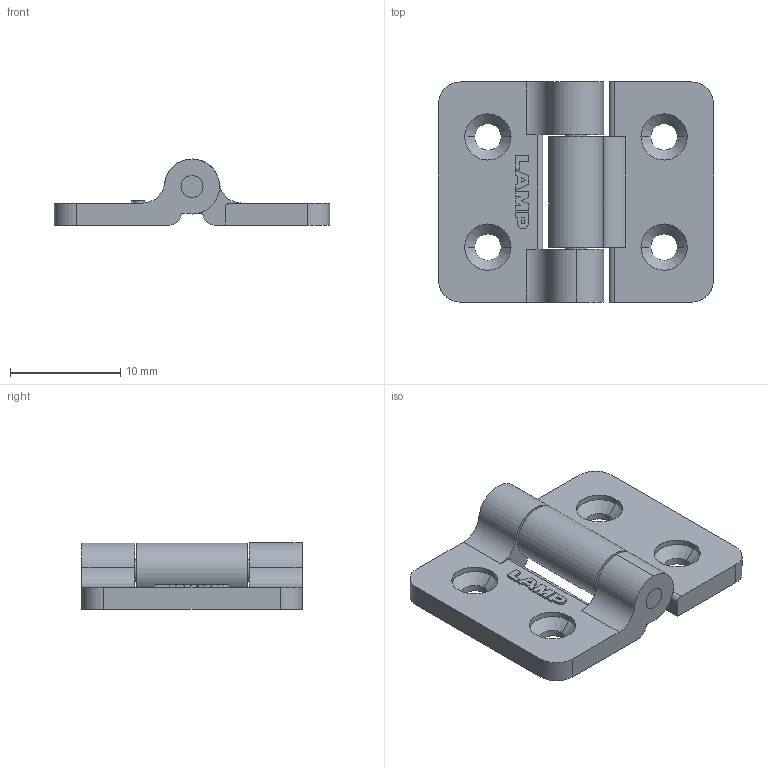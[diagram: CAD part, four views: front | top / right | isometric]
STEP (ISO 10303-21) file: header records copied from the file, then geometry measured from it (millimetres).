
FILE_DESCRIPTION (( 'STEP AP203' ), '1' );
FILE_NAME ('HG-MF08_1.step', '2019-03-25T01:45:22', ( '' ), ( '' ), 'SwSTEP 2.0', 'SolidWorks 2015', '' );
FILE_SCHEMA (( 'CONFIG_CONTROL_DESIGN' ));
Length unit declared in the file: millimetre
Products named in the file (4): HG-MF08_1; SC170-04883_HG-MF08型_本体A; SC170-04884_HG-MF08型_本体B; SC170-04885_HG-MF08型_軸
Assembly tree (3 placements, depth 2):
  HG-MF08_1
    SC170-04883_HG-MF08型_本体A
    SC170-04884_HG-MF08型_本体B
    SC170-04885_HG-MF08型_軸
Bounding box: 25 x 20 x 6 mm (x, y, z)
Volume: 1160.2 mm3; surface area: 1665.1 mm2
Topology: 3 solids, 3 shells, 133 faces, 343 edges, 222 vertices
Faces by surface type: plane 68, cylinder 47, cone 14, bspline 4
Entity records: 4505 total; most frequent: CARTESIAN_POINT 756, DIRECTION 707, ORIENTED_EDGE 686, EDGE_CURVE 343, AXIS2_PLACEMENT_3D 237, LINE 233, VECTOR 233, VERTEX_POINT 222
